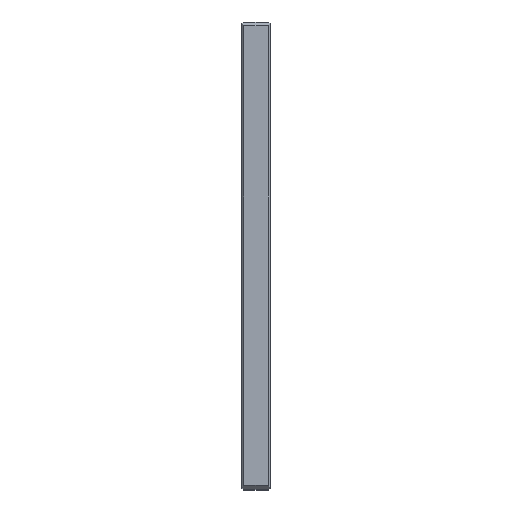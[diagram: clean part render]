
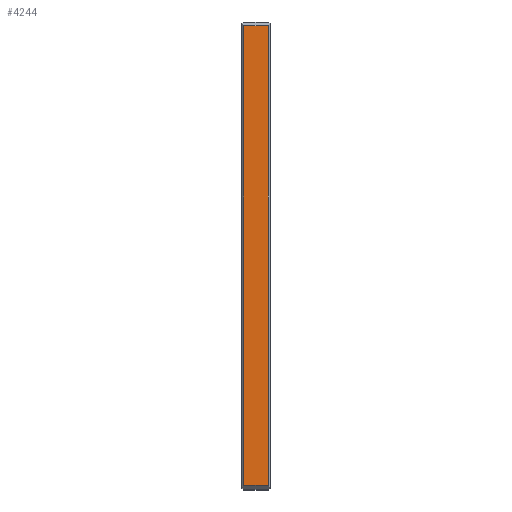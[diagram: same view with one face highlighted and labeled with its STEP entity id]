
A CAD part, top view. The second image highlights one B-rep face of the part: STEP entity #4244.
In plain terms, the highlighted planar face has unit normal (0, 0, 1).
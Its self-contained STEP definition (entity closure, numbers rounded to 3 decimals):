
#1234=FACE_OUTER_BOUND($,#1757,.T.);
#1757=EDGE_LOOP($,(#3583,#3584,#3585,#3586));
#2372=LINE($,#6785,#2412);
#2380=LINE($,#7002,#2420);
#2385=LINE($,#7012,#2425);
#2403=LINE($,#7248,#2443);
#2412=VECTOR($,#5290,13.);
#2420=VECTOR($,#5504,246.);
#2425=VECTOR($,#5511,13.);
#2443=VECTOR($,#5747,246.);
#2451=VERTEX_POINT($,#6782);
#2452=VERTEX_POINT($,#6784);
#2558=VERTEX_POINT($,#7000);
#2562=VERTEX_POINT($,#7010);
#2880=EDGE_CURVE($,#2451,#2452,#2372,.T.);
#2989=EDGE_CURVE($,#2558,#2451,#2380,.T.);
#2994=EDGE_CURVE($,#2562,#2558,#2385,.T.);
#3113=EDGE_CURVE($,#2452,#2562,#2403,.T.);
#3583=ORIENTED_EDGE($,*,*,#2989,.F.);
#3584=ORIENTED_EDGE($,*,*,#2994,.F.);
#3585=ORIENTED_EDGE($,*,*,#3113,.F.);
#3586=ORIENTED_EDGE($,*,*,#2880,.F.);
#4221=PLANE($,#4770);
#4244=ADVANCED_FACE($,(#1234),#4221,.T.);
#4770=AXIS2_PLACEMENT_3D($,#7253,#5752,#5753);
#5290=DIRECTION($,(1.,0.,0.));
#5504=DIRECTION($,(0.,1.,0.));
#5511=DIRECTION($,(-1.,0.,0.));
#5747=DIRECTION($,(0.,-1.,0.));
#5752=DIRECTION('center_axis',(0.,0.,1.));
#5753=DIRECTION('ref_axis',(0.,-1.,0.));
#6782=CARTESIAN_POINT('',(1.,248.,250.));
#6784=CARTESIAN_POINT('',(14.,248.,250.));
#6785=CARTESIAN_POINT($,(0.,248.,250.));
#7000=CARTESIAN_POINT('',(1.,2.,250.));
#7002=CARTESIAN_POINT($,(1.,187.5,250.));
#7010=CARTESIAN_POINT('',(14.,2.,250.));
#7012=CARTESIAN_POINT($,(0.,2.,250.));
#7248=CARTESIAN_POINT($,(14.,187.5,250.));
#7253=CARTESIAN_POINT('Origin',(0.,250.,250.));
